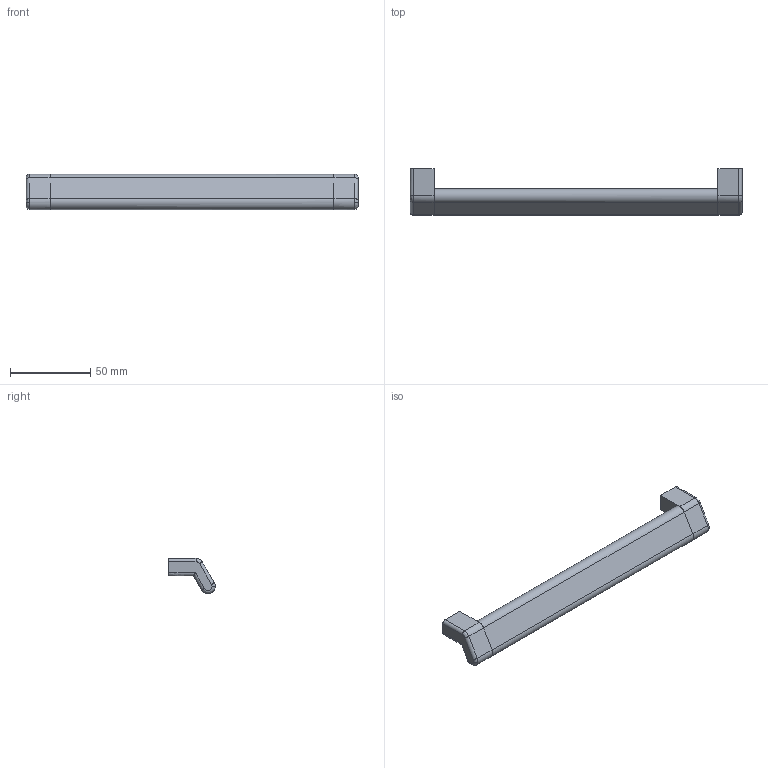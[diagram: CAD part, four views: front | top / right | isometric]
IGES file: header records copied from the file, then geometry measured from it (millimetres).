
Start section: C
Global section: file name: 8017-207.igs; native system: By Siemens PLM Incorporated; preprocessor: XPlus GENERIC/IGES 16.0.42; author: Author; organization: Title; date: 20231210.145139; units: millimetre
Bounding box: 207 x 29 x 22 mm (x, y, z)
Surface area: 27225.9 mm2 (no closed solid volume)
Topology: 0 solids, 0 shells, 124 faces, 642 edges, 642 vertices
Faces by surface type: bspline 124
